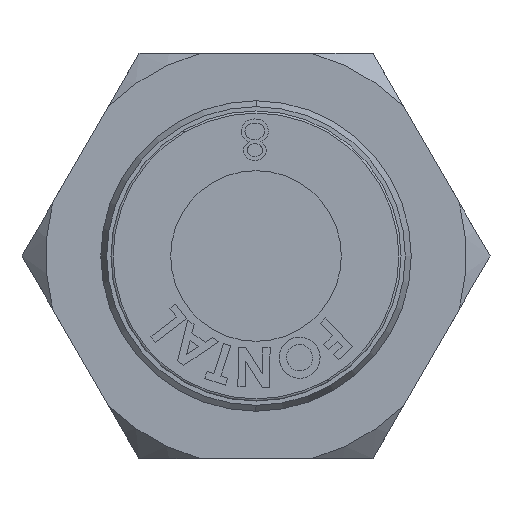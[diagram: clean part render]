
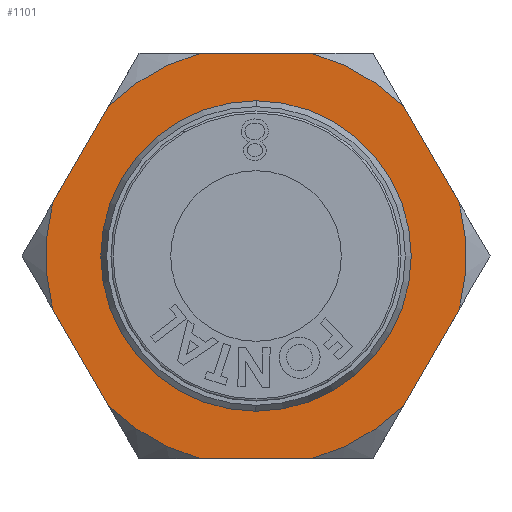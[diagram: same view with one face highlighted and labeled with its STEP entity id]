
A CAD part, left-side view. The second image highlights one B-rep face of the part: STEP entity #1101.
In plain terms, the highlighted planar face has unit normal (-1, 0, 0) as drawn and (0, 0, -1) by its records, which use the part's own axes.
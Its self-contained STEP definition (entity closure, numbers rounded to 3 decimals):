
#230 = PLANE ( 'NONE',  #6731 ) ;
#236 = CARTESIAN_POINT ( 'NONE',  ( -9.5, -5.485, 0. ) ) ;
#369 = CARTESIAN_POINT ( 'NONE',  ( -9.5, -2.614, 0. ) ) ;
#425 = EDGE_CURVE ( 'NONE', #856, #452, #3487, .T. ) ;
#437 = CARTESIAN_POINT ( 'NONE',  ( 0., 0., 0. ) ) ;
#452 = VERTEX_POINT ( 'NONE', #4982 ) ;
#650 = VERTEX_POINT ( 'NONE', #5522 ) ;
#856 = VERTEX_POINT ( 'NONE', #2400 ) ;
#1025 = DIRECTION ( 'NONE',  ( 0., 0., 1. ) ) ;
#1087 = ORIENTED_EDGE ( 'NONE', *, *, #8775, .F. ) ;
#1094 = ORIENTED_EDGE ( 'NONE', *, *, #6885, .T. ) ;
#1101 = ADVANCED_FACE ( 'NONE', ( #5285, #9675 ), #230, .F. ) ;
#1224 = ORIENTED_EDGE ( 'NONE', *, *, #4103, .T. ) ;
#1320 = EDGE_CURVE ( 'NONE', #3296, #452, #5107, .T. ) ;
#1403 = AXIS2_PLACEMENT_3D ( 'NONE', #7232, #2823, #8631 ) ;
#1569 = DIRECTION ( 'NONE',  ( 0., 1., 0. ) ) ;
#1574 = LINE ( 'NONE', #7243, #6101 ) ;
#1636 = CARTESIAN_POINT ( 'NONE',  ( 0., 0., 0. ) ) ;
#1700 = AXIS2_PLACEMENT_3D ( 'NONE', #5503, #5419, #4593 ) ;
#1733 = DIRECTION ( 'NONE',  ( 0., 0., -1. ) ) ;
#1894 = DIRECTION ( 'NONE',  ( 1., 0., 0. ) ) ;
#1951 = EDGE_CURVE ( 'NONE', #3200, #8347, #9479, .T. ) ;
#2106 = DIRECTION ( 'NONE',  ( 0., 0., -1. ) ) ;
#2127 = VERTEX_POINT ( 'NONE', #3847 ) ;
#2213 = ORIENTED_EDGE ( 'NONE', *, *, #5328, .F. ) ;
#2277 = DIRECTION ( 'NONE',  ( -0.866, -0.5, 0. ) ) ;
#2308 = CARTESIAN_POINT ( 'NONE',  ( 7.014, 6.92, 0. ) ) ;
#2334 = EDGE_CURVE ( 'NONE', #650, #7783, #7588, .T. ) ;
#2384 = DIRECTION ( 'NONE',  ( 1., 0., 0. ) ) ;
#2400 = CARTESIAN_POINT ( 'NONE',  ( -2.486, 9.534, 0. ) ) ;
#2608 = ORIENTED_EDGE ( 'NONE', *, *, #6900, .F. ) ;
#2642 = VECTOR ( 'NONE', #10004, 1000. ) ;
#2712 = DIRECTION ( 'NONE',  ( 1., 0., 0. ) ) ;
#2823 = DIRECTION ( 'NONE',  ( 0., 0., -1. ) ) ;
#3162 = AXIS2_PLACEMENT_3D ( 'NONE', #4135, #6508, #2384 ) ;
#3200 = VERTEX_POINT ( 'NONE', #10365 ) ;
#3269 = VECTOR ( 'NONE', #9993, 1000. ) ;
#3296 = VERTEX_POINT ( 'NONE', #2308 ) ;
#3347 = EDGE_CURVE ( 'NONE', #2127, #5889, #9972, .T. ) ;
#3378 = CARTESIAN_POINT ( 'NONE',  ( -2.486, -9.534, 0. ) ) ;
#3383 = ORIENTED_EDGE ( 'NONE', *, *, #3347, .T. ) ;
#3479 = CARTESIAN_POINT ( 'NONE',  ( 7.014, -6.92, 0. ) ) ;
#3487 = CIRCLE ( 'NONE', #8265, 9.853 ) ;
#3837 = CARTESIAN_POINT ( 'NONE',  ( 9.5, 2.614, 0. ) ) ;
#3847 = CARTESIAN_POINT ( 'NONE',  ( 9.5, -2.614, 0. ) ) ;
#4103 = EDGE_CURVE ( 'NONE', #7743, #8347, #6635, .T. ) ;
#4135 = CARTESIAN_POINT ( 'NONE',  ( 0., 0., 0. ) ) ;
#4180 = CARTESIAN_POINT ( 'NONE',  ( 0., 0., 0. ) ) ;
#4315 = ORIENTED_EDGE ( 'NONE', *, *, #1320, .F. ) ;
#4364 = CARTESIAN_POINT ( 'NONE',  ( 0., 0., 0. ) ) ;
#4466 = CIRCLE ( 'NONE', #1700, 7.275 ) ;
#4527 = DIRECTION ( 'NONE',  ( -0.866, 0.5, 0. ) ) ;
#4528 = EDGE_CURVE ( 'NONE', #650, #5889, #5438, .T. ) ;
#4553 = ORIENTED_EDGE ( 'NONE', *, *, #2334, .T. ) ;
#4593 = DIRECTION ( 'NONE',  ( 1., 0., 0. ) ) ;
#4727 = CIRCLE ( 'NONE', #5678, 9.853 ) ;
#4877 = ORIENTED_EDGE ( 'NONE', *, *, #425, .T. ) ;
#4912 = CARTESIAN_POINT ( 'NONE',  ( -7.275, 0., 0. ) ) ;
#4982 = CARTESIAN_POINT ( 'NONE',  ( 2.486, 9.534, 0. ) ) ;
#5036 = EDGE_LOOP ( 'NONE', ( #1087, #3383, #9127, #4553, #2608, #1224, #5180, #5471, #2213, #4877, #4315, #1094 ) ) ;
#5107 = LINE ( 'NONE', #9414, #8234 ) ;
#5108 = CIRCLE ( 'NONE', #9354, 9.853 ) ;
#5180 = ORIENTED_EDGE ( 'NONE', *, *, #1951, .F. ) ;
#5285 = FACE_BOUND ( 'NONE', #8579, .T. ) ;
#5328 = EDGE_CURVE ( 'NONE', #856, #7977, #1574, .T. ) ;
#5419 = DIRECTION ( 'NONE',  ( 0., 0., 1. ) ) ;
#5438 = LINE ( 'NONE', #7399, #3269 ) ;
#5471 = ORIENTED_EDGE ( 'NONE', *, *, #6186, .T. ) ;
#5503 = CARTESIAN_POINT ( 'NONE',  ( 0., 0., 0. ) ) ;
#5522 = CARTESIAN_POINT ( 'NONE',  ( 2.486, -9.534, 0. ) ) ;
#5567 = EDGE_CURVE ( 'NONE', #9607, #7208, #4466, .T. ) ;
#5678 = AXIS2_PLACEMENT_3D ( 'NONE', #437, #2106, #7012 ) ;
#5680 = CARTESIAN_POINT ( 'NONE',  ( 0., 0., 0. ) ) ;
#5826 = AXIS2_PLACEMENT_3D ( 'NONE', #5680, #7284, #7367 ) ;
#5869 = ORIENTED_EDGE ( 'NONE', *, *, #7460, .T. ) ;
#5889 = VERTEX_POINT ( 'NONE', #3479 ) ;
#6067 = CARTESIAN_POINT ( 'NONE',  ( 0., 0., 0. ) ) ;
#6101 = VECTOR ( 'NONE', #2277, 1000. ) ;
#6186 = EDGE_CURVE ( 'NONE', #3200, #7977, #4727, .T. ) ;
#6508 = DIRECTION ( 'NONE',  ( 0., 0., -1. ) ) ;
#6554 = CARTESIAN_POINT ( 'NONE',  ( 9.5, -5.485, 0. ) ) ;
#6635 = CIRCLE ( 'NONE', #1403, 9.853 ) ;
#6699 = DIRECTION ( 'NONE',  ( 0., 0., -1. ) ) ;
#6719 = CARTESIAN_POINT ( 'NONE',  ( -9.5, 5.485, 0. ) ) ;
#6731 = AXIS2_PLACEMENT_3D ( 'NONE', #6067, #1025, #1894 ) ;
#6787 = CARTESIAN_POINT ( 'NONE',  ( -7.014, -6.92, 0. ) ) ;
#6885 = EDGE_CURVE ( 'NONE', #3296, #10326, #5108, .T. ) ;
#6900 = EDGE_CURVE ( 'NONE', #7743, #7783, #7474, .T. ) ;
#7012 = DIRECTION ( 'NONE',  ( 1., 0., 0. ) ) ;
#7207 = VECTOR ( 'NONE', #9288, 1000. ) ;
#7208 = VERTEX_POINT ( 'NONE', #7999 ) ;
#7232 = CARTESIAN_POINT ( 'NONE',  ( 0., 0., 0. ) ) ;
#7243 = CARTESIAN_POINT ( 'NONE',  ( 0., 10.97, 0. ) ) ;
#7284 = DIRECTION ( 'NONE',  ( 0., 0., 1. ) ) ;
#7367 = DIRECTION ( 'NONE',  ( 1., 0., 0. ) ) ;
#7399 = CARTESIAN_POINT ( 'NONE',  ( 0., -10.97, 0. ) ) ;
#7460 = EDGE_CURVE ( 'NONE', #7208, #9607, #9367, .T. ) ;
#7474 = LINE ( 'NONE', #236, #7207 ) ;
#7588 = CIRCLE ( 'NONE', #9277, 9.853 ) ;
#7743 = VERTEX_POINT ( 'NONE', #6787 ) ;
#7783 = VERTEX_POINT ( 'NONE', #3378 ) ;
#7977 = VERTEX_POINT ( 'NONE', #10498 ) ;
#7999 = CARTESIAN_POINT ( 'NONE',  ( 7.275, 0., 0. ) ) ;
#8234 = VECTOR ( 'NONE', #4527, 1000. ) ;
#8265 = AXIS2_PLACEMENT_3D ( 'NONE', #4180, #6699, #9945 ) ;
#8343 = VECTOR ( 'NONE', #1569, 1000. ) ;
#8347 = VERTEX_POINT ( 'NONE', #369 ) ;
#8350 = DIRECTION ( 'NONE',  ( 1., 0., 0. ) ) ;
#8579 = EDGE_LOOP ( 'NONE', ( #5869, #10128 ) ) ;
#8631 = DIRECTION ( 'NONE',  ( 1., 0., 0. ) ) ;
#8775 = EDGE_CURVE ( 'NONE', #2127, #10326, #10614, .T. ) ;
#9127 = ORIENTED_EDGE ( 'NONE', *, *, #4528, .F. ) ;
#9277 = AXIS2_PLACEMENT_3D ( 'NONE', #1636, #9835, #8350 ) ;
#9288 = DIRECTION ( 'NONE',  ( 0.866, -0.5, 0. ) ) ;
#9354 = AXIS2_PLACEMENT_3D ( 'NONE', #4364, #1733, #2712 ) ;
#9367 = CIRCLE ( 'NONE', #5826, 7.275 ) ;
#9414 = CARTESIAN_POINT ( 'NONE',  ( 9.5, 5.485, 0. ) ) ;
#9479 = LINE ( 'NONE', #6719, #2642 ) ;
#9607 = VERTEX_POINT ( 'NONE', #4912 ) ;
#9675 = FACE_OUTER_BOUND ( 'NONE', #5036, .T. ) ;
#9835 = DIRECTION ( 'NONE',  ( 0., 0., -1. ) ) ;
#9945 = DIRECTION ( 'NONE',  ( 1., 0., 0. ) ) ;
#9972 = CIRCLE ( 'NONE', #3162, 9.853 ) ;
#9993 = DIRECTION ( 'NONE',  ( 0.866, 0.5, 0. ) ) ;
#10004 = DIRECTION ( 'NONE',  ( 0., -1., 0. ) ) ;
#10128 = ORIENTED_EDGE ( 'NONE', *, *, #5567, .T. ) ;
#10326 = VERTEX_POINT ( 'NONE', #3837 ) ;
#10365 = CARTESIAN_POINT ( 'NONE',  ( -9.5, 2.614, 0. ) ) ;
#10498 = CARTESIAN_POINT ( 'NONE',  ( -7.014, 6.92, 0. ) ) ;
#10614 = LINE ( 'NONE', #6554, #8343 ) ;
